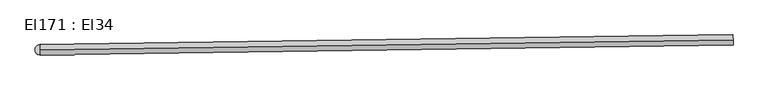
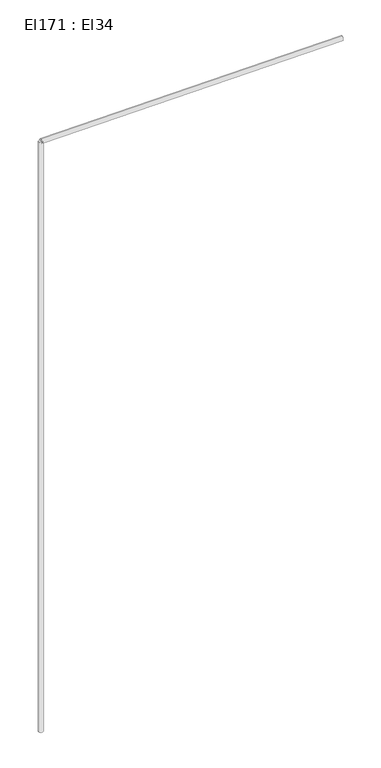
"""IFC4 building model written with IfcOpenShell, lengths in millimetres: cable carrier segment geometry, El171 : El34."""

from ifc_helpers import new_model, si_unit, point, frame, frame_2d, origin, place, context, project, spatial, circle_curve, trimmed, segment, composite_curve, outline, extrude, source, transform, mapped, element, save


def el171_el34_def59c32(model_context):
    return source(origin(), model_context, "Body", "SweptSolid", [
        extrude(outline(composite_curve([segment(trimmed(circle_curve(frame_2d((2764.4766511, 9002.1809945)), 9.5), [point((2754.9766511, 9002.1809945))], [point((2773.9766511, 9002.1809945))], False, "CARTESIAN"), True, "CONTINUOUS"), segment(trimmed(circle_curve(frame_2d((2764.4766511, 9002.1809945)), 9.5), [point((2773.9766511, 9002.1809945))], [point((2754.9766511, 9002.1809945))], False, "CARTESIAN"), True, "CONTINUOUS")], self_intersect=False)), frame((0.0, 0.0, 1830.0), z_axis=(0.0, 0.0, 1.0), x_axis=(1.0, 0.0, 0.0)), (0.0, 0.0, 1.0), 2620.0),
        extrude(outline(composite_curve([segment(trimmed(circle_curve(frame_2d((0.0, -9.5)), 9.5), [point((0.0, -19.0))], [point((0.0, 0.0))], False, "CARTESIAN"), True, "CONTINUOUS"), segment(trimmed(circle_curve(frame_2d((0.0, -9.5)), 9.5), [point((0.0, 0.0))], [point((0.0, -19.0))], False, "CARTESIAN"), True, "CONTINUOUS")], self_intersect=False)), frame((2764.4782137, 9002.1809911, 4459.5), z_axis=(0.999895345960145, 0.014467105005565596, 0.0), x_axis=(-0.014467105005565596, 0.999895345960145, 0.0)), (0.0, 0.0, 1.0), 1276.23),
    ])


if __name__ == "__main__":
    model = new_model("IFC4")
    model_context = context("Model", 3, world=origin())
    ifc_project = project(units=[si_unit("LENGTHUNIT", "METRE", prefix="MILLI")], contexts=[model_context])
    site = spatial("IfcSite", under=ifc_project)
    building = spatial("IfcBuilding", under=site)
    placement = place(None, origin())
    el171_el34_shape = el171_el34_def59c32(model_context)
    element("IfcCableCarrierSegment", 1, ObjectType="El171 : El34", at=placement, inside=building, context=model_context, shape_type="MappedRepresentation", body=[
        mapped(el171_el34_shape, transform((0.0, 0.0, 0.0), x_axis=(1.0, 0.0, 0.0), y_axis=(0.0, 1.0, 0.0), z_axis=(0.0, 0.0, 1.0))),
    ])
    save(model, "model.ifc")
